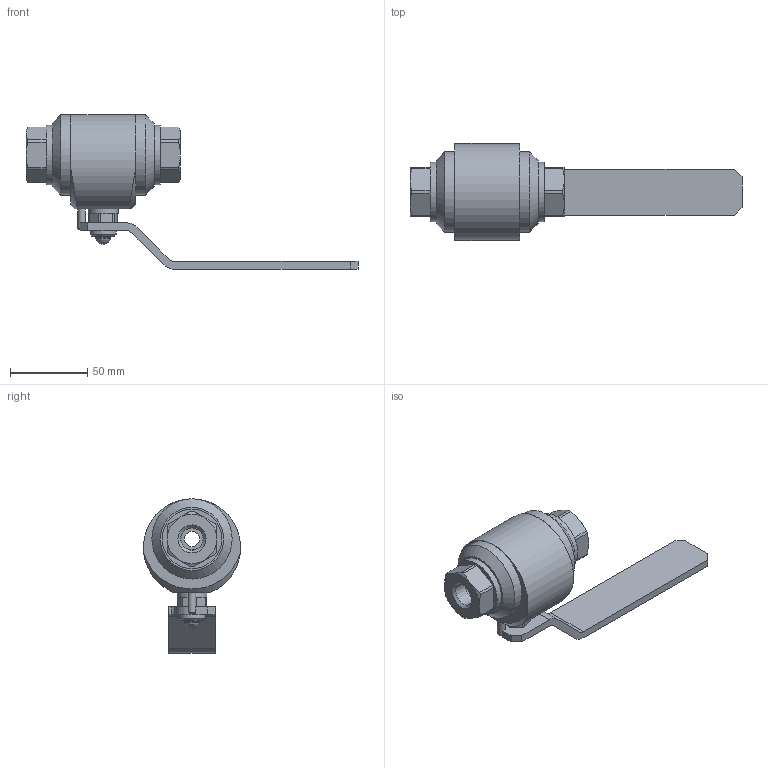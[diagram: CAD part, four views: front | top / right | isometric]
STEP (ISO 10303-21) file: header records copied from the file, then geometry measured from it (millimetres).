
FILE_DESCRIPTION(('STEP AP203'), '1');
FILE_NAME('ZARDP 010.320.10.P.stp', '2013-12-05T08:29:54', ('Øèøêî'), ('ÎÎÎ ÈÊ Ýíåðïðåä-ßðäîñ'), 'ASCON STEP Converter 1.3', 'Kompas 3D', '');
FILE_SCHEMA(('CONFIG_CONTROL_DESIGN','SUPPORT_RESOURCE_SCHEMA'));
Length unit declared in the file: millimetre
Products named in the file (1): 30
Bounding box: 215 x 62.85 x 100 mm (x, y, z)
Volume: 210783.2 mm3; surface area: 43592.6 mm2
Topology: 1 solids, 2 shells, 173 faces, 418 edges, 262 vertices
Faces by surface type: plane 89, cylinder 52, cone 31, sphere 1
Full cylindrical faces by diameter (mm): 5 x2, 6 x1, 6.5 x1, 10 x3, 10.7 x1, 10.917 x1, 12 x1, 12.1 x1, 14 x1, 14.318 x2, 17 x1, 19.4 x1, 19.8 x1, 20 x2, 31.4 x1, 38.5 x2, 52 x2
Entity records: 6309 total; most frequent: CARTESIAN_POINT 2105, DIRECTION 889, ORIENTED_EDGE 836, EDGE_CURVE 418, AXIS2_PLACEMENT_3D 342, VERTEX_POINT 262, LINE 205, VECTOR 205
